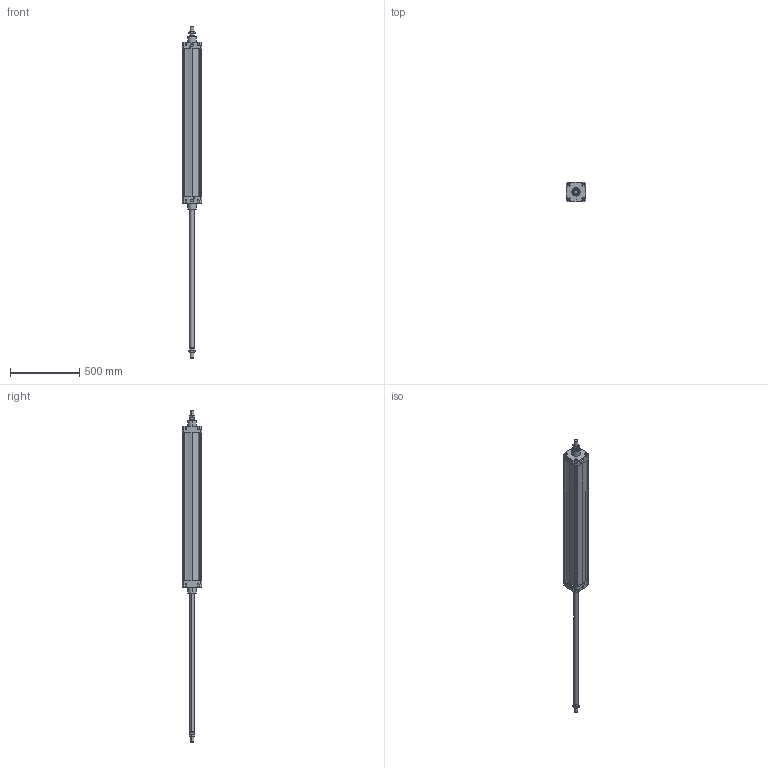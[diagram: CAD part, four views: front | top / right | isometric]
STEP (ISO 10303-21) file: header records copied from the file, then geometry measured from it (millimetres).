
FILE_DESCRIPTION((''),'2;1');
FILE_NAME('I:\DOC-EDP\Lib-3d\1319\CILINDRI\Ø125\1319_125_1000_02.stp','2003-04-08T12:28:09',('maffial1'),(''),'Autodesk Inventor (R) 6.0','Autodesk Inventor (R) 6.0','');
FILE_SCHEMA(('AUTOMOTIVE_DESIGN { 1 0 10303 214 1 1 1 1 }'));
Length unit declared in the file: millimetre
Products named in the file (4): 1319_125_1000_02; CIM04_125_1000; CIM03_125_1000; 1320_125_18F
Assembly tree (4 placements, depth 2):
  1319_125_1000_02
    CIM04_125_1000
    CIM03_125_1000
    1320_125_18F  x2
Bounding box: 140 x 140 x 2398 mm (x, y, z)
Volume: 19790638 mm3; surface area: 1109778.3 mm2
Topology: 4 solids, 4 shells, 290 faces, 724 edges, 452 vertices
Faces by surface type: plane 130, bspline 72, cone 60, cylinder 28
Entity records: 8094 total; most frequent: CARTESIAN_POINT 1972, ORIENTED_EDGE 1288, DIRECTION 1160, EDGE_CURVE 644, VECTOR 480, LINE 480, VERTEX_POINT 416, AXIS2_PLACEMENT_3D 340
